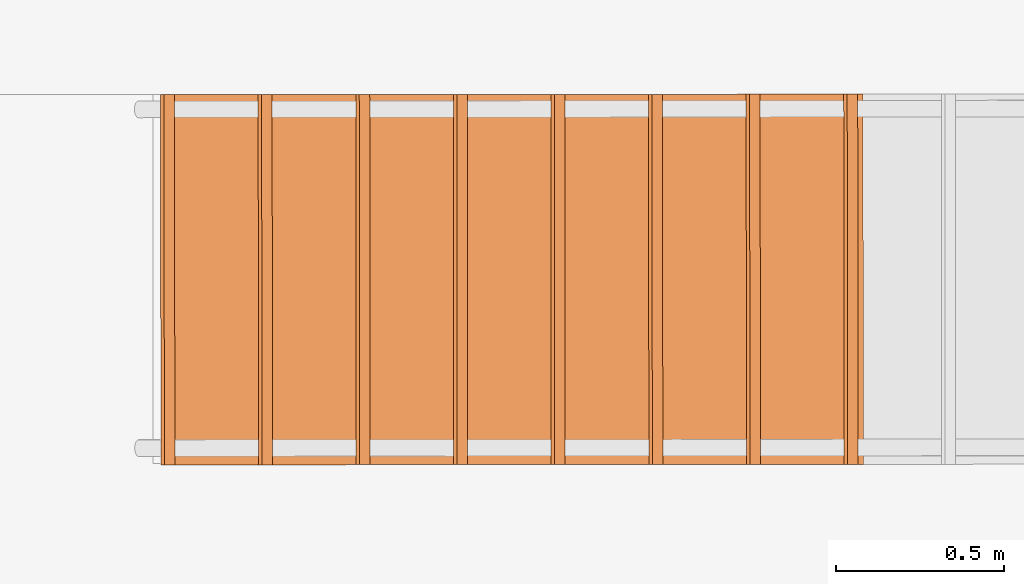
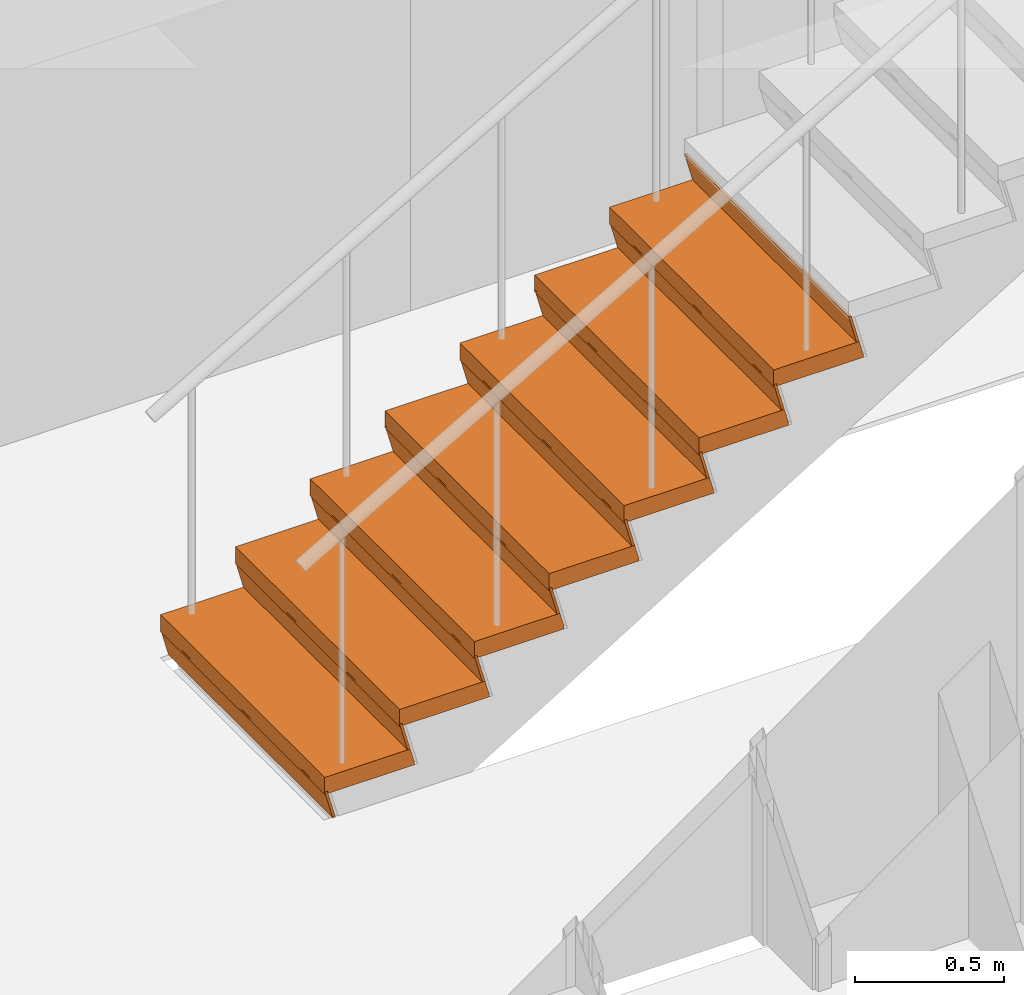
# One storey, part 125 of 127: 15 proxies, 1 element without a shape of its own.
"""IFC2X3 building model written with IfcOpenShell, lengths in millimetres."""

from ifc_helpers import new_model, entity, si_unit, converted_unit, derived_unit, money_unit, direction, frame, origin_with_axes, place, context, subcontext, project, spatial, faceted_brep, material, type_object, element, aggregate, save


model = new_model("IFC2X3")

# Units and contexts
model_context = context("Model", 3, precision=1e-05, world=origin_with_axes(), true_north=direction((0.0, 1.0)))
body_context = subcontext(model_context, "Body", "Model", "MODEL_VIEW")
ifc_project = project(units=[si_unit("LENGTHUNIT", "METRE", prefix="MILLI"), si_unit("AREAUNIT", "SQUARE_METRE"), si_unit("VOLUMEUNIT", "CUBIC_METRE"), converted_unit("PLANEANGLEUNIT", "DEGREE", entity("IfcPlaneAngleMeasure", 0.0174532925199), si_unit("PLANEANGLEUNIT", "RADIAN"), dimensions=[0, 0, 0, 0, 0, 0, 0]), si_unit("SOLIDANGLEUNIT", "STERADIAN"), money_unit("EUR"), converted_unit("TIMEUNIT", "Year", entity("IfcTimeMeasure", 31556926.0), si_unit("TIMEUNIT", "SECOND"), dimensions=[0, 0, 1, 0, 0, 0, 0]), si_unit("MASSUNIT", "GRAM", prefix="KILO"), si_unit("THERMODYNAMICTEMPERATUREUNIT", "DEGREE_CELSIUS"), si_unit("LUMINOUSINTENSITYUNIT", "LUMEN"), si_unit("ENERGYUNIT", "JOULE", prefix="MEGA"), derived_unit("THERMALCONDUCTANCEUNIT", [(si_unit("POWERUNIT", "WATT"), 1), (si_unit("LENGTHUNIT", "METRE"), -1), (si_unit("THERMODYNAMICTEMPERATUREUNIT", "KELVIN"), -1)]), derived_unit("SPECIFICHEATCAPACITYUNIT", [(si_unit("ENERGYUNIT", "JOULE"), 1), (si_unit("MASSUNIT", "GRAM", prefix="KILO"), -1), (si_unit("THERMODYNAMICTEMPERATUREUNIT", "KELVIN"), -1)]), derived_unit("MASSDENSITYUNIT", [(si_unit("MASSUNIT", "GRAM", prefix="KILO"), 1), (si_unit("VOLUMEUNIT", "CUBIC_METRE"), -1)])], contexts=[model_context])

# Site, building, storey
site_placement = place(None, origin_with_axes())
site = spatial("IfcSite", under=ifc_project, at=site_placement, Name="Site", CompositionType="ELEMENT")
building_placement = place(site_placement, origin_with_axes())
building = spatial("IfcBuilding", under=site, at=building_placement, Name="Building", CompositionType="ELEMENT")
storey_placement = place(building_placement, origin_with_axes())
storey = spatial("IfcBuildingStorey", under=building, at=storey_placement, Name="1 KORRUS", CompositionType="ELEMENT", Elevation=0.0)

# Stair, proxies
stair_placement = place(storey_placement, frame((9889.99181075, 65961.1849179, 0.0), z_axis=(0.0, 0.0, 1.0), x_axis=(1.0, 0.0, 0.0)))
stair = element("IfcStair", 1, at=stair_placement, inside=storey, Name="STAIR - 001", ShapeType="NOTDEFINED")
ifc_material = material(Name="Betoon - Ol.Olev konstruktsioon")
building_element_proxy_type_1 = type_object("IfcBuildingElementProxyType", Name="SF RISER - 020", PredefinedType="NOTDEFINED")
proxy_1_placement = place(stair_placement, frame((0.438508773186, -549.999825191, 116.470588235), z_axis=(0.0, 0.0, 1.0), x_axis=(0.000797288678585, -0.999999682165, 0.0)))
proxy_1 = element("IfcBuildingElementProxy", 2, at=proxy_1_placement, type_object=building_element_proxy_type_1, material=ifc_material, Name=";  Objekti nimi: Riser 22", context=body_context, shape_type="Brep", body=[
    faceted_brep([(550.0, 0.0, 0.0), (550.0, 10.3527618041, 0.0), (-550.0, 10.3527618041, 0.0), (-550.0, 0.0, 0.0), (550.0, 31.2082000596, -116.470588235), (550.0, 41.5609618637, -116.470588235), (-550.0, 41.5609618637, -116.470588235), (-550.0, 31.2082000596, -116.470588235)], [[[0, 1, 2, 3]], [[0, 4, 5, 1]], [[1, 5, 6, 2]], [[3, 2, 6, 7]], [[4, 0, 3, 7]], [[5, 4, 7, 6]]]),
])
proxy_2_placement = place(stair_placement, frame((290.438416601, -549.768611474, 292.941176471), z_axis=(0.0, 0.0, 1.0), x_axis=(0.000797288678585, -0.999999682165, 0.0)))
proxy_2 = element("IfcBuildingElementProxy", 3, at=proxy_2_placement, type_object=building_element_proxy_type_1, material=ifc_material, Name=";  Objekti nimi: Riser 22", context=body_context, shape_type="Brep", body=[
    faceted_brep([(550.0, 0.0, 0.0), (550.0, 10.3527618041, 0.0), (-550.0, 10.3527618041, 0.0), (-550.0, 0.0, 0.0), (550.0, 31.2082000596, -116.470588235), (550.0, 41.5609618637, -116.470588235), (-550.0, 41.5609618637, -116.470588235), (-550.0, 31.2082000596, -116.470588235)], [[[0, 1, 2, 3]], [[0, 4, 5, 1]], [[1, 5, 6, 2]], [[3, 2, 6, 7]], [[4, 0, 3, 7]], [[5, 4, 7, 6]]]),
])
proxy_3_placement = place(stair_placement, frame((580.438324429, -549.537397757, 469.411764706), z_axis=(0.0, 0.0, 1.0), x_axis=(0.000797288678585, -0.999999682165, 0.0)))
proxy_3 = element("IfcBuildingElementProxy", 4, at=proxy_3_placement, type_object=building_element_proxy_type_1, material=ifc_material, Name=";  Objekti nimi: Riser 22", context=body_context, shape_type="Brep", body=[
    faceted_brep([(550.0, 0.0, 0.0), (550.0, 10.3527618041, 0.0), (-550.0, 10.3527618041, 0.0), (-550.0, 0.0, 0.0), (550.0, 31.2082000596, -116.470588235), (550.0, 41.5609618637, -116.470588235), (-550.0, 41.5609618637, -116.470588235), (-550.0, 31.2082000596, -116.470588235)], [[[0, 1, 2, 3]], [[0, 4, 5, 1]], [[1, 5, 6, 2]], [[3, 2, 6, 7]], [[4, 0, 3, 7]], [[5, 4, 7, 6]]]),
])
proxy_4_placement = place(stair_placement, frame((870.438232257, -549.306184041, 645.882352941), z_axis=(0.0, 0.0, 1.0), x_axis=(0.000797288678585, -0.999999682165, 0.0)))
proxy_4 = element("IfcBuildingElementProxy", 5, at=proxy_4_placement, type_object=building_element_proxy_type_1, material=ifc_material, Name=";  Objekti nimi: Riser 22", context=body_context, shape_type="Brep", body=[
    faceted_brep([(550.0, 0.0, 0.0), (550.0, 10.3527618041, 0.0), (-550.0, 10.3527618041, 0.0), (-550.0, 0.0, 0.0), (550.0, 31.2082000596, -116.470588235), (550.0, 41.5609618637, -116.470588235), (-550.0, 41.5609618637, -116.470588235), (-550.0, 31.2082000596, -116.470588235)], [[[0, 1, 2, 3]], [[0, 4, 5, 1]], [[1, 5, 6, 2]], [[3, 2, 6, 7]], [[4, 0, 3, 7]], [[5, 4, 7, 6]]]),
])
proxy_5_placement = place(stair_placement, frame((1160.43814009, -549.074970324, 822.352941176), z_axis=(0.0, 0.0, 1.0), x_axis=(0.000797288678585, -0.999999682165, 0.0)))
proxy_5 = element("IfcBuildingElementProxy", 6, at=proxy_5_placement, type_object=building_element_proxy_type_1, material=ifc_material, Name=";  Objekti nimi: Riser 22", context=body_context, shape_type="Brep", body=[
    faceted_brep([(550.0, 0.0, 0.0), (550.0, 10.3527618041, 0.0), (-550.0, 10.3527618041, 0.0), (-550.0, 0.0, 0.0), (550.0, 31.2082000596, -116.470588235), (550.0, 41.5609618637, -116.470588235), (-550.0, 41.5609618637, -116.470588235), (-550.0, 31.2082000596, -116.470588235)], [[[0, 1, 2, 3]], [[0, 4, 5, 1]], [[1, 5, 6, 2]], [[3, 2, 6, 7]], [[4, 0, 3, 7]], [[5, 4, 7, 6]]]),
])
proxy_6_placement = place(stair_placement, frame((1450.43804791, -548.843756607, 998.823529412), z_axis=(0.0, 0.0, 1.0), x_axis=(0.000797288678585, -0.999999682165, 0.0)))
proxy_6 = element("IfcBuildingElementProxy", 7, at=proxy_6_placement, type_object=building_element_proxy_type_1, material=ifc_material, Name=";  Objekti nimi: Riser 22", context=body_context, shape_type="Brep", body=[
    faceted_brep([(550.0, 0.0, 0.0), (550.0, 10.3527618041, 0.0), (-550.0, 10.3527618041, 0.0), (-550.0, 0.0, 0.0), (550.0, 31.2082000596, -116.470588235), (550.0, 41.5609618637, -116.470588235), (-550.0, 41.5609618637, -116.470588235), (-550.0, 31.2082000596, -116.470588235)], [[[0, 1, 2, 3]], [[0, 4, 5, 1]], [[1, 5, 6, 2]], [[3, 2, 6, 7]], [[4, 0, 3, 7]], [[5, 4, 7, 6]]]),
])
proxy_7_placement = place(stair_placement, frame((1740.43795574, -548.612542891, 1175.29411765), z_axis=(0.0, 0.0, 1.0), x_axis=(0.000797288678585, -0.999999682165, 0.0)))
proxy_7 = element("IfcBuildingElementProxy", 8, at=proxy_7_placement, type_object=building_element_proxy_type_1, material=ifc_material, Name=";  Objekti nimi: Riser 22", context=body_context, shape_type="Brep", body=[
    faceted_brep([(550.0, 0.0, 0.0), (550.0, 10.3527618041, 0.0), (-550.0, 10.3527618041, 0.0), (-550.0, 0.0, 0.0), (550.0, 31.2082000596, -116.470588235), (550.0, 41.5609618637, -116.470588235), (-550.0, 41.5609618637, -116.470588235), (-550.0, 31.2082000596, -116.470588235)], [[[0, 1, 2, 3]], [[0, 4, 5, 1]], [[1, 5, 6, 2]], [[3, 2, 6, 7]], [[4, 0, 3, 7]], [[5, 4, 7, 6]]]),
])
proxy_8_placement = place(stair_placement, frame((2030.43786357, -548.381329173, 1351.76470588), z_axis=(0.0, 0.0, 1.0), x_axis=(0.000797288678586, -0.999999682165, 0.0)))
proxy_8 = element("IfcBuildingElementProxy", 9, at=proxy_8_placement, type_object=building_element_proxy_type_1, material=ifc_material, Name=";  Objekti nimi: Riser 22", context=body_context, shape_type="Brep", body=[
    faceted_brep([(550.0, 0.0, 0.0), (550.0, 10.3527618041, 0.0), (-550.0, 10.3527618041, 0.0), (-550.0, 0.0, 0.0), (550.0, 31.2082000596, -116.470588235), (550.0, 41.5609618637, -116.470588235), (-550.0, 41.5609618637, -116.470588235), (-550.0, 31.2082000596, -116.470588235)], [[[0, 1, 2, 3]], [[0, 4, 5, 1]], [[1, 5, 6, 2]], [[3, 2, 6, 7]], [[4, 0, 3, 7]], [[5, 4, 7, 6]]]),
])
building_element_proxy_type_2 = type_object("IfcBuildingElementProxyType", Name="SF TREAD - 020", PredefinedType="NOTDEFINED")
proxy_9_placement = place(stair_placement, frame((0.438508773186, -549.999825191, 176.470588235), z_axis=(0.0, 0.0, 1.0), x_axis=(0.000797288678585, -0.999999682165, 0.0)))
proxy_9 = element("IfcBuildingElementProxy", 10, at=proxy_9_placement, type_object=building_element_proxy_type_2, material=ifc_material, Name=";  Objekti nimi: Tread 22", context=body_context, shape_type="Brep", body=[
    faceted_brep([(-550.0, 347.637912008, -70.0), (550.0, 347.637918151, -70.0), (550.0, 0.0, -70.0), (-550.0, 0.0, -70.0), (510.0, 40.0, -70.0), (510.0, 307.637917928, -70.0), (-510.0, 307.637912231, -70.0), (-510.0, 40.0, -70.0), (-550.00000018, 347.637912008, -60.0), (550.0, 347.637912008, -60.0), (550.0, 331.560960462, 0.0), (550.0, 0.0, 0.0), (-550.0, 0.0, 0.0), (-550.0, 331.560960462, 0.0), (510.0, 40.0, -60.0), (510.0, 307.637917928, -60.0), (-510.0, 307.637912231, -60.0), (-510.0, 40.0, -60.0)], [[[0, 1, 2, 3], [4, 5, 6, 7]], [[0, 8, 9, 1]], [[10, 11, 2, 1, 9]], [[11, 12, 3, 2]], [[12, 13, 8, 0, 3]], [[5, 4, 14, 15]], [[6, 5, 15, 16]], [[7, 6, 16, 17]], [[4, 7, 17, 14]], [[13, 10, 9, 8]], [[10, 13, 12, 11]], [[17, 16, 15, 14]]]),
])
proxy_10_placement = place(stair_placement, frame((290.438416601, -549.768611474, 352.941176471), z_axis=(0.0, 0.0, 1.0), x_axis=(0.000797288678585, -0.999999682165, 0.0)))
proxy_10 = element("IfcBuildingElementProxy", 11, at=proxy_10_placement, type_object=building_element_proxy_type_2, material=ifc_material, Name=";  Objekti nimi: Tread 22", context=body_context, shape_type="Brep", body=[
    faceted_brep([(-550.0, 347.637911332, -70.0), (550.0, 347.637917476, -70.0), (550.0, 0.0, -70.0), (-550.0, 0.0, -70.0), (510.0, 40.0, -70.0), (510.0, 307.637917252, -70.0), (-510.0, 307.637911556, -70.0), (-510.0, 40.0, -70.0), (-550.00000018, 347.637911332, -60.0), (550.0, 347.637911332, -60.0), (550.0, 331.560959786, 0.0), (550.0, 0.0, 0.0), (-550.0, 0.0, 0.0), (-550.0, 331.560959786, 0.0), (510.0, 40.0, -60.0), (510.0, 307.637917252, -60.0), (-510.0, 307.637911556, -60.0), (-510.0, 40.0, -60.0)], [[[0, 1, 2, 3], [4, 5, 6, 7]], [[0, 8, 9, 1]], [[10, 11, 2, 1, 9]], [[11, 12, 3, 2]], [[12, 13, 8, 0, 3]], [[5, 4, 14, 15]], [[6, 5, 15, 16]], [[7, 6, 16, 17]], [[4, 7, 17, 14]], [[13, 10, 9, 8]], [[10, 13, 12, 11]], [[17, 16, 15, 14]]]),
])
proxy_11_placement = place(stair_placement, frame((580.438324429, -549.537397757, 529.411764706), z_axis=(0.0, 0.0, 1.0), x_axis=(0.000797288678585, -0.999999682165, 0.0)))
proxy_11 = element("IfcBuildingElementProxy", 12, at=proxy_11_placement, type_object=building_element_proxy_type_2, material=ifc_material, Name=";  Objekti nimi: Tread 22", context=body_context, shape_type="Brep", body=[
    faceted_brep([(-550.0, 347.637910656, -70.0), (550.0, 347.6379168, -70.0), (550.0, 0.0, -70.0), (-550.0, 0.0, -70.0), (510.0, 40.0, -70.0), (510.0, 307.637916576, -70.0), (-510.0, 307.63791088, -70.0), (-510.0, 40.0, -70.0), (-550.00000018, 347.637910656, -60.0), (550.0, 347.637910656, -60.0), (550.0, 331.560959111, 0.0), (550.0, 0.0, 0.0), (-550.0, 0.0, 0.0), (-550.0, 331.560959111, 0.0), (510.0, 40.0, -60.0), (510.0, 307.637916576, -60.0), (-510.0, 307.63791088, -60.0), (-510.0, 40.0, -60.0)], [[[0, 1, 2, 3], [4, 5, 6, 7]], [[0, 8, 9, 1]], [[10, 11, 2, 1, 9]], [[11, 12, 3, 2]], [[12, 13, 8, 0, 3]], [[5, 4, 14, 15]], [[6, 5, 15, 16]], [[7, 6, 16, 17]], [[4, 7, 17, 14]], [[13, 10, 9, 8]], [[10, 13, 12, 11]], [[17, 16, 15, 14]]]),
])
proxy_12_placement = place(stair_placement, frame((870.438232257, -549.306184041, 705.882352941), z_axis=(0.0, 0.0, 1.0), x_axis=(0.000797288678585, -0.999999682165, 0.0)))
proxy_12 = element("IfcBuildingElementProxy", 13, at=proxy_12_placement, type_object=building_element_proxy_type_2, material=ifc_material, Name=";  Objekti nimi: Tread 22", context=body_context, shape_type="Brep", body=[
    faceted_brep([(-550.0, 347.63790998, -70.0), (550.0, 347.637916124, -70.0), (550.0, 0.0, -70.0), (-550.0, 0.0, -70.0), (510.0, 40.0, -70.0), (510.0, 307.6379159, -70.0), (-510.0, 307.637910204, -70.0), (-510.0, 40.0, -70.0), (-550.00000018, 347.63790998, -60.0), (550.0, 347.63790998, -60.0), (550.0, 331.560958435, 0.0), (550.0, 0.0, 0.0), (-550.0, 0.0, 0.0), (-550.0, 331.560958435, 0.0), (510.0, 40.0, -60.0), (510.0, 307.6379159, -60.0), (-510.0, 307.637910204, -60.0), (-510.0, 40.0, -60.0)], [[[0, 1, 2, 3], [4, 5, 6, 7]], [[0, 8, 9, 1]], [[10, 11, 2, 1, 9]], [[11, 12, 3, 2]], [[12, 13, 8, 0, 3]], [[5, 4, 14, 15]], [[6, 5, 15, 16]], [[7, 6, 16, 17]], [[4, 7, 17, 14]], [[13, 10, 9, 8]], [[10, 13, 12, 11]], [[17, 16, 15, 14]]]),
])
proxy_13_placement = place(stair_placement, frame((1160.43814009, -549.074970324, 882.352941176), z_axis=(0.0, 0.0, 1.0), x_axis=(0.000797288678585, -0.999999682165, 0.0)))
proxy_13 = element("IfcBuildingElementProxy", 14, at=proxy_13_placement, type_object=building_element_proxy_type_2, material=ifc_material, Name=";  Objekti nimi: Tread 22", context=body_context, shape_type="Brep", body=[
    faceted_brep([(-550.0, 347.637909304, -70.0), (550.0, 347.637915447, -70.0), (550.0, 0.0, -70.0), (-550.0, 0.0, -70.0), (510.0, 40.0, -70.0), (510.0, 307.637915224, -70.0), (-510.0, 307.637909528, -70.0), (-510.0, 40.0, -70.0), (-550.00000018, 347.637909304, -60.0), (550.0, 347.637909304, -60.0), (550.0, 331.560957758, 0.0), (550.0, 0.0, 0.0), (-550.0, 0.0, 0.0), (-550.0, 331.560957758, 0.0), (510.0, 40.0, -60.0), (510.0, 307.637915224, -60.0), (-510.0, 307.637909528, -60.0), (-510.0, 40.0, -60.0)], [[[0, 1, 2, 3], [4, 5, 6, 7]], [[0, 8, 9, 1]], [[10, 11, 2, 1, 9]], [[11, 12, 3, 2]], [[12, 13, 8, 0, 3]], [[5, 4, 14, 15]], [[6, 5, 15, 16]], [[7, 6, 16, 17]], [[4, 7, 17, 14]], [[13, 10, 9, 8]], [[10, 13, 12, 11]], [[17, 16, 15, 14]]]),
])
proxy_14_placement = place(stair_placement, frame((1450.43804791, -548.843756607, 1058.82352941), z_axis=(0.0, 0.0, 1.0), x_axis=(0.000797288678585, -0.999999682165, 0.0)))
proxy_14 = element("IfcBuildingElementProxy", 15, at=proxy_14_placement, type_object=building_element_proxy_type_2, material=ifc_material, Name=";  Objekti nimi: Tread 22", context=body_context, shape_type="Brep", body=[
    faceted_brep([(-550.0, 347.637908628, -70.0), (550.0, 347.637914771, -70.0), (550.0, 0.0, -70.0), (-550.0, 0.0, -70.0), (510.0, 40.0, -70.0), (510.0, 307.637914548, -70.0), (-510.0, 307.637908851, -70.0), (-510.0, 40.0, -70.0), (-550.00000018, 347.637908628, -60.0), (550.0, 347.637908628, -60.0), (550.0, 331.560957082, 0.0), (550.0, 0.0, 0.0), (-550.0, 0.0, 0.0), (-550.0, 331.560957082, 0.0), (510.0, 40.0, -60.0), (510.0, 307.637914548, -60.0), (-510.0, 307.637908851, -60.0), (-510.0, 40.0, -60.0)], [[[0, 1, 2, 3], [4, 5, 6, 7]], [[0, 8, 9, 1]], [[10, 11, 2, 1, 9]], [[11, 12, 3, 2]], [[12, 13, 8, 0, 3]], [[5, 4, 14, 15]], [[6, 5, 15, 16]], [[7, 6, 16, 17]], [[4, 7, 17, 14]], [[13, 10, 9, 8]], [[10, 13, 12, 11]], [[17, 16, 15, 14]]]),
])
proxy_15_placement = place(stair_placement, frame((1740.43795574, -548.612542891, 1235.29411765), z_axis=(0.0, 0.0, 1.0), x_axis=(0.000797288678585, -0.999999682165, 0.0)))
proxy_15 = element("IfcBuildingElementProxy", 16, at=proxy_15_placement, type_object=building_element_proxy_type_2, material=ifc_material, Name=";  Objekti nimi: Tread 22", context=body_context, shape_type="Brep", body=[
    faceted_brep([(-550.0, 347.637912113, -70.0), (550.0, 347.637918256, -70.0), (550.0, 0.0, -70.0), (-550.0, 0.0, -70.0), (510.0, 40.0, -70.0), (510.0, 307.637918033, -70.0), (-510.0, 307.637912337, -70.0), (-510.0, 40.0, -70.0), (-550.00000018, 347.637912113, -60.0), (550.0, 347.637912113, -60.0), (550.0, 331.560960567, 0.0), (550.0, 0.0, 0.0), (-550.0, 0.0, 0.0), (-550.0, 331.560960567, 0.0), (510.0, 40.0, -60.0), (510.0, 307.637918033, -60.0), (-510.0, 307.637912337, -60.0), (-510.0, 40.0, -60.0)], [[[0, 1, 2, 3], [4, 5, 6, 7]], [[0, 8, 9, 1]], [[10, 11, 2, 1, 9]], [[11, 12, 3, 2]], [[12, 13, 8, 0, 3]], [[5, 4, 14, 15]], [[6, 5, 15, 16]], [[7, 6, 16, 17]], [[4, 7, 17, 14]], [[13, 10, 9, 8]], [[10, 13, 12, 11]], [[17, 16, 15, 14]]]),
])
aggregate(stair, [proxy_1, proxy_2, proxy_3, proxy_4, proxy_5, proxy_6, proxy_7, proxy_8, proxy_9, proxy_10, proxy_11, proxy_12, proxy_13, proxy_14, proxy_15])

save(model, "model.ifc")
